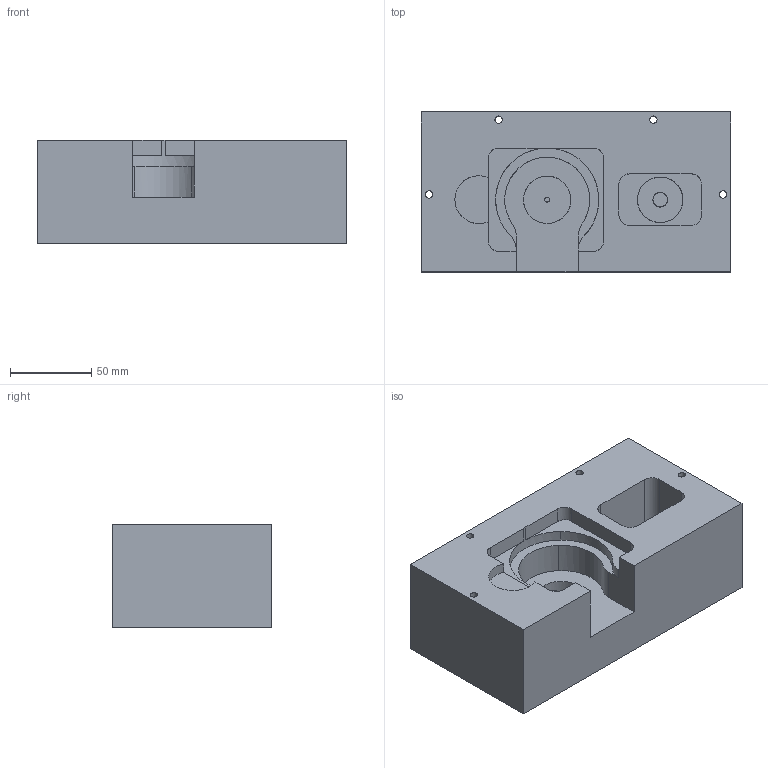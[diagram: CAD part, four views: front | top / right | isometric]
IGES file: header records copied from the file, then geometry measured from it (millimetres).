
Global section: file name: /Users/Pablo/Desktop/atomoptics:projects/laser_cover/drawings/igs/front_wall1.igs; native system: VectorWorks; preprocessor: HarmonyWare IGES v1.6.3; date: 20100907.123228; units: millimetre
Bounding box: 190.5 x 98.42 x 63.5 mm (x, y, z)
Surface area: 95928.3 mm2 (no closed solid volume)
Topology: 0 solids, 0 shells, 76 faces, 494 edges, 478 vertices
Faces by surface type: bspline 76
